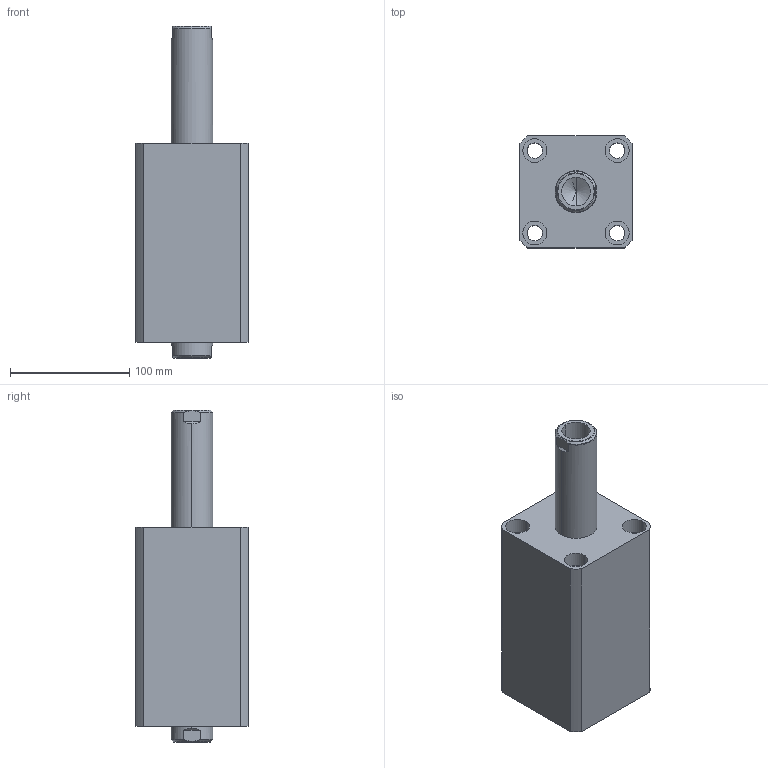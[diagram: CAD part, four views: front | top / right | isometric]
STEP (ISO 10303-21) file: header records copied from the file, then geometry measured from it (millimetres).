
FILE_DESCRIPTION (( 'STEP AP214' ), '1' );
FILE_NAME ('chtb-sw63x85n_asm.STEP', '2018-05-12T02:22:12', ( 'Windows' ), ( 'Microsoft' ), 'SwSTEP 2.0', 'SolidWorks 2015', '' );
FILE_SCHEMA (( 'AUTOMOTIVE_DESIGN' ));
Length unit declared in the file: millimetre
Products named in the file (4): CHTB-SW63X85NHSG; CHTB-SW63X85NBT; CHTB-63QG; chtb-sw63x85n_asm
Assembly tree (3 placements, depth 2):
  chtb-sw63x85n_asm
    CHTB-63QG
    CHTB-SW63X85NBT
    CHTB-SW63X85NHSG
Bounding box: 94 x 94 x 278 mm (x, y, z)
Volume: 1252016.1 mm3; surface area: 199122.3 mm2
Topology: 3 solids, 3 shells, 184 faces, 515 edges, 349 vertices
Faces by surface type: cylinder 106, plane 38, cone 16, bspline 12, torus 12
Entity records: 18385 total; most frequent: CARTESIAN_POINT 13775, ORIENTED_EDGE 1014, DIRECTION 814, EDGE_CURVE 507, VERTEX_POINT 349, AXIS2_PLACEMENT_3D 331, EDGE_LOOP 220, FACE_OUTER_BOUND 184
